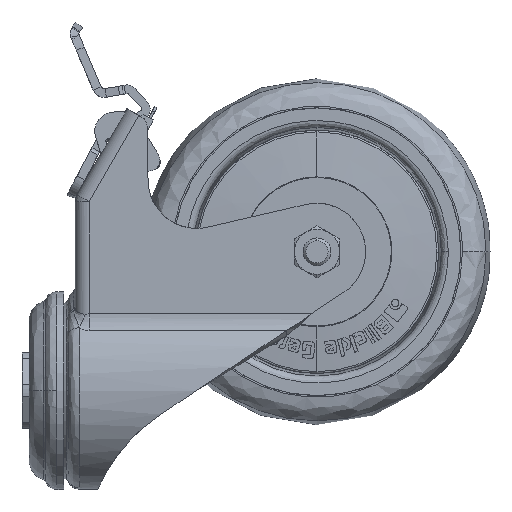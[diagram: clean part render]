
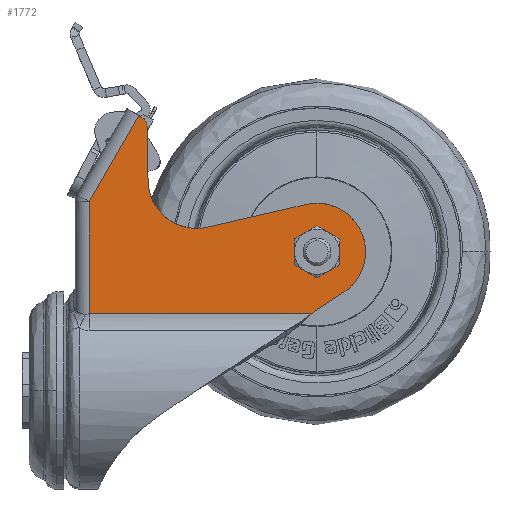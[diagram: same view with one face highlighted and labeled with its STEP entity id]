
A CAD part, left-side view. The second image highlights one B-rep face of the part: STEP entity #1772.
In plain terms, the highlighted planar face has unit normal (-1, 0, 0).
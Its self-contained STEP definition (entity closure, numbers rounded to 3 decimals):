
#1036 = AXIS2_PLACEMENT_3D ( 'NONE', #95687, #130581, #57851 ) ;
#1772 = ADVANCED_FACE ( 'NONE', ( #46947 ), #105797, .T. ) ;
#2093 = VERTEX_POINT ( 'NONE', #140302 ) ;
#2514 = CARTESIAN_POINT ( 'NONE',  ( -21., -33.662, 77.69 ) ) ;
#4019 = LINE ( 'NONE', #101472, #121420 ) ;
#4072 = CARTESIAN_POINT ( 'NONE',  ( -21., -32.548, 78.749 ) ) ;
#5633 = CARTESIAN_POINT ( 'NONE',  ( -21., -24.516, 66.837 ) ) ;
#5919 = DIRECTION ( 'NONE',  ( 0., 0., -1. ) ) ;
#6780 = VERTEX_POINT ( 'NONE', #56292 ) ;
#9050 = CARTESIAN_POINT ( 'NONE',  ( -21., -91.49, 28.835 ) ) ;
#11661 = DIRECTION ( 'NONE',  ( 0., -0.832, 0.555 ) ) ;
#11871 = CARTESIAN_POINT ( 'NONE',  ( -21., -33.968, 76.974 ) ) ;
#12285 = EDGE_CURVE ( 'NONE', #135983, #74719, #39945, .T. ) ;
#12495 = LINE ( 'NONE', #61231, #95344 ) ;
#30619 = VERTEX_POINT ( 'NONE', #37797 ) ;
#32224 = CARTESIAN_POINT ( 'NONE',  ( -21., -82.415, 54.068 ) ) ;
#34499 = CARTESIAN_POINT ( 'NONE',  ( -21., -79.851, 53.641 ) ) ;
#36177 = ORIENTED_EDGE ( 'NONE', *, *, #144652, .T. ) ;
#37797 = CARTESIAN_POINT ( 'NONE',  ( -21., -51.469, 47.089 ) ) ;
#38866 = CARTESIAN_POINT ( 'NONE',  ( -21., -32.771, 78.62 ) ) ;
#39945 = B_SPLINE_CURVE_WITH_KNOTS ( 'NONE', 3,
 ( #93860, #117907, #11871, #2514, #147215, #38866, #4072 ),
 .UNSPECIFIED., .F., .F.,
 ( 4, 1, 1, 1, 4 ),
 ( 0., 0.001, 0.002, 0.002, 0.003 ),
 .UNSPECIFIED. ) ;
#43399 = DIRECTION ( 'NONE',  ( 0., 0.974, -0.225 ) ) ;
#43841 = CARTESIAN_POINT ( 'NONE',  ( -21., -96.962, 41.82 ) ) ;
#44648 = VERTEX_POINT ( 'NONE', #117028 ) ;
#46113 = CARTESIAN_POINT ( 'NONE',  ( -21., -95.82, 34.177 ) ) ;
#46558 = CARTESIAN_POINT ( 'NONE',  ( -21., -41.756, 48.28 ) ) ;
#46947 = FACE_OUTER_BOUND ( 'NONE', #151341, .T. ) ;
#47300 = CARTESIAN_POINT ( 'NONE',  ( -21., -34.322, 60.486 ) ) ;
#47555 = CARTESIAN_POINT ( 'NONE',  ( -21., -34.322, 60.486 ) ) ;
#48043 = CARTESIAN_POINT ( 'NONE',  ( -21., -34.336, 59.655 ) ) ;
#49031 = VERTEX_POINT ( 'NONE', #80849 ) ;
#49145 = ORIENTED_EDGE ( 'NONE', *, *, #90185, .T. ) ;
#49504 = CARTESIAN_POINT ( 'NONE',  ( -21., -81.494, 22.164 ) ) ;
#52809 = DIRECTION ( 'NONE',  ( 0., 0.5, -0.866 ) ) ;
#53350 = CARTESIAN_POINT ( 'NONE',  ( -21., -31.682, 79.249 ) ) ;
#54333 = DIRECTION ( 'NONE',  ( 0., 0.866, 0.5 ) ) ;
#55850 = ORIENTED_EDGE ( 'NONE', *, *, #98359, .T. ) ;
#56279 = VECTOR ( 'NONE', #54333, 1000. ) ;
#56292 = CARTESIAN_POINT ( 'NONE',  ( -21., -90.771, 28.355 ) ) ;
#57424 = CARTESIAN_POINT ( 'NONE',  ( -21., -37.828, 51.349 ) ) ;
#57851 = DIRECTION ( 'NONE',  ( 0., 0., 1. ) ) ;
#58015 = EDGE_CURVE ( 'NONE', #74719, #74131, #138710, .T. ) ;
#58747 = EDGE_CURVE ( 'NONE', #30619, #143929, #61825, .T. ) ;
#59704 = DIRECTION ( 'NONE',  ( 0., 0.017, 1. ) ) ;
#61231 = CARTESIAN_POINT ( 'NONE',  ( -21., -34.322, 60.486 ) ) ;
#61825 = B_SPLINE_CURVE_WITH_KNOTS ( 'NONE', 3,
 ( #104629, #69796, #117042, #117782, #152548, #46558, #119337, #57424, #83687, #82165, #130924, #48043, #47300 ),
 .UNSPECIFIED., .F., .F.,
 ( 4, 1, 1, 1, 1, 1, 1, 1, 1, 1, 4 ),
 ( 0., 0.002, 0.005, 0.007, 0.01, 0.012, 0.015, 0.017, 0.02, 0.022, 0.025 ),
 .UNSPECIFIED. ) ;
#62399 = VECTOR ( 'NONE', #43399, 1000. ) ;
#64332 = DIRECTION ( 'NONE',  ( 0., -1., 0. ) ) ;
#64415 = LINE ( 'NONE', #5633, #104298 ) ;
#65188 = CARTESIAN_POINT ( 'NONE',  ( -21., -81.494, 22.164 ) ) ;
#66623 = EDGE_CURVE ( 'NONE', #49031, #2093, #71157, .T. ) ;
#67017 = ORIENTED_EDGE ( 'NONE', *, *, #130482, .T. ) ;
#67423 = CARTESIAN_POINT ( 'NONE',  ( -21., -34.048, 76.203 ) ) ;
#69796 = CARTESIAN_POINT ( 'NONE',  ( -21., -50.66, 46.902 ) ) ;
#70127 = CARTESIAN_POINT ( 'NONE',  ( -21., -80.693, 53.836 ) ) ;
#71157 = LINE ( 'NONE', #95874, #104278 ) ;
#74131 = VERTEX_POINT ( 'NONE', #53350 ) ;
#74719 = VERTEX_POINT ( 'NONE', #82578 ) ;
#80849 = CARTESIAN_POINT ( 'NONE',  ( -21., -17.35, 54.425 ) ) ;
#80972 = CARTESIAN_POINT ( 'NONE',  ( -21., -87.551, 53.325 ) ) ;
#81718 = CARTESIAN_POINT ( 'NONE',  ( -21., -96.388, 44.362 ) ) ;
#82165 = CARTESIAN_POINT ( 'NONE',  ( -21., -35.216, 55.595 ) ) ;
#82578 = CARTESIAN_POINT ( 'NONE',  ( -21., -32.548, 78.749 ) ) ;
#83687 = CARTESIAN_POINT ( 'NONE',  ( -21., -36.333, 53.355 ) ) ;
#87102 = EDGE_CURVE ( 'NONE', #143929, #135983, #12495, .T. ) ;
#89793 = CARTESIAN_POINT ( 'NONE',  ( -21., -79.851, 53.641 ) ) ;
#90185 = EDGE_CURVE ( 'NONE', #2093, #110117, #4019, .T. ) ;
#91005 = CARTESIAN_POINT ( 'NONE',  ( -21., -90.771, 28.355 ) ) ;
#92515 = CARTESIAN_POINT ( 'NONE',  ( -21., -89.928, 52.258 ) ) ;
#93250 = ORIENTED_EDGE ( 'NONE', *, *, #145745, .T. ) ;
#93860 = CARTESIAN_POINT ( 'NONE',  ( -21., -34.048, 76.203 ) ) ;
#94077 = CARTESIAN_POINT ( 'NONE',  ( -21., -92.84, 29.928 ) ) ;
#95344 = VECTOR ( 'NONE', #59704, 1000. ) ;
#95687 = CARTESIAN_POINT ( 'NONE',  ( -21., -15.757, 21.022 ) ) ;
#95874 = CARTESIAN_POINT ( 'NONE',  ( -21., -17.35, 50.706 ) ) ;
#98359 = EDGE_CURVE ( 'NONE', #74131, #49031, #64415, .T. ) ;
#99914 = ORIENTED_EDGE ( 'NONE', *, *, #58015, .T. ) ;
#100632 = ORIENTED_EDGE ( 'NONE', *, *, #87102, .T. ) ;
#101472 = CARTESIAN_POINT ( 'NONE',  ( -21., -57.178, 22.164 ) ) ;
#102286 = VECTOR ( 'NONE', #11661, 1000. ) ;
#103423 = CARTESIAN_POINT ( 'NONE',  ( -21., -93.898, 48.916 ) ) ;
#104187 = CARTESIAN_POINT ( 'NONE',  ( -21., -92.069, 50.771 ) ) ;
#104278 = VECTOR ( 'NONE', #5919, 1000. ) ;
#104298 = VECTOR ( 'NONE', #52809, 1000. ) ;
#104629 = CARTESIAN_POINT ( 'NONE',  ( -21., -51.469, 47.089 ) ) ;
#105703 = CARTESIAN_POINT ( 'NONE',  ( -21., -85.018, 53.935 ) ) ;
#105797 = PLANE ( 'NONE',  #1036 ) ;
#110117 = VERTEX_POINT ( 'NONE', #65188 ) ;
#111680 = CARTESIAN_POINT ( 'NONE',  ( -21., -32.115, 78.999 ) ) ;
#117028 = CARTESIAN_POINT ( 'NONE',  ( -21., -79.851, 53.641 ) ) ;
#117042 = CARTESIAN_POINT ( 'NONE',  ( -21., -49.007, 46.673 ) ) ;
#117343 = CARTESIAN_POINT ( 'NONE',  ( -21., -94.527, 31.914 ) ) ;
#117782 = CARTESIAN_POINT ( 'NONE',  ( -21., -46.507, 46.773 ) ) ;
#117907 = CARTESIAN_POINT ( 'NONE',  ( -21., -34.043, 76.46 ) ) ;
#119337 = CARTESIAN_POINT ( 'NONE',  ( -21., -39.655, 49.639 ) ) ;
#121420 = VECTOR ( 'NONE', #64332, 1000. ) ;
#125573 = ORIENTED_EDGE ( 'NONE', *, *, #58747, .T. ) ;
#130482 = EDGE_CURVE ( 'NONE', #6780, #44648, #145937, .T. ) ;
#130581 = DIRECTION ( 'NONE',  ( -1., 0., 0. ) ) ;
#130924 = CARTESIAN_POINT ( 'NONE',  ( -21., -34.514, 57.996 ) ) ;
#135983 = VERTEX_POINT ( 'NONE', #67423 ) ;
#138129 = ORIENTED_EDGE ( 'NONE', *, *, #12285, .T. ) ;
#138287 = CARTESIAN_POINT ( 'NONE',  ( -21., -95.354, 46.755 ) ) ;
#138710 = LINE ( 'NONE', #111680, #56279 ) ;
#140302 = CARTESIAN_POINT ( 'NONE',  ( -21., -17.35, 22.164 ) ) ;
#140903 = LINE ( 'NONE', #49504, #102286 ) ;
#143929 = VERTEX_POINT ( 'NONE', #47555 ) ;
#144652 = EDGE_CURVE ( 'NONE', #44648, #30619, #148686, .T. ) ;
#145745 = EDGE_CURVE ( 'NONE', #110117, #6780, #140903, .T. ) ;
#145937 = B_SPLINE_CURVE_WITH_KNOTS ( 'NONE', 3,
 ( #91005, #9050, #94077, #117343, #46113, #149897, #152873, #43841, #81718, #138287, #103423, #104187, #92515, #80972, #105703, #32224, #70127, #34499 ),
 .UNSPECIFIED., .F., .F.,
 ( 4, 1, 1, 1, 1, 1, 1, 1, 1, 1, 1, 1, 1, 1, 1, 4 ),
 ( 0., 0.003, 0.005, 0.008, 0.01, 0.013, 0.015, 0.018, 0.021, 0.023, 0.026, 0.028, 0.031, 0.034, 0.036, 0.039 ),
 .UNSPECIFIED. ) ;
#147215 = CARTESIAN_POINT ( 'NONE',  ( -21., -33.184, 78.305 ) ) ;
#148129 = ORIENTED_EDGE ( 'NONE', *, *, #66623, .T. ) ;
#148686 = LINE ( 'NONE', #89793, #62399 ) ;
#149897 = CARTESIAN_POINT ( 'NONE',  ( -21., -96.673, 36.639 ) ) ;
#151341 = EDGE_LOOP ( 'NONE', ( #55850, #148129, #49145, #93250, #67017, #36177, #125573, #100632, #138129, #99914 ) ) ;
#152548 = CARTESIAN_POINT ( 'NONE',  ( -21., -44.064, 47.315 ) ) ;
#152873 = CARTESIAN_POINT ( 'NONE',  ( -21., -97.059, 39.216 ) ) ;
